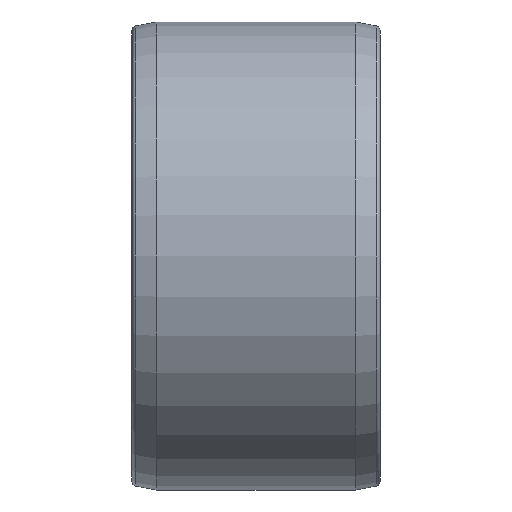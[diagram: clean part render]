
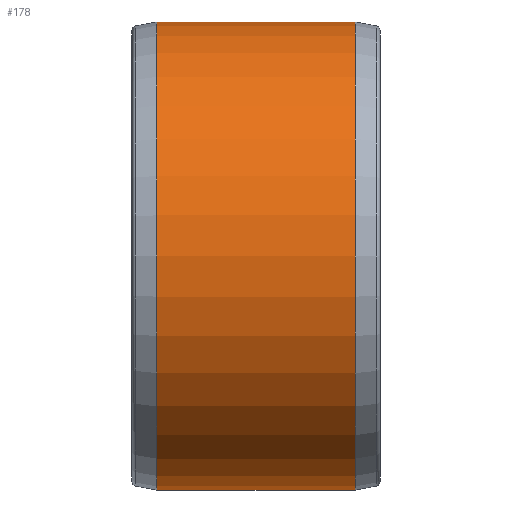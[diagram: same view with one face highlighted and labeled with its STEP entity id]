
A CAD part, front view. The second image highlights one B-rep face of the part: STEP entity #178.
In plain terms, the highlighted cylindrical face has radius 100 mm (diameter 200 mm), a full revolution.
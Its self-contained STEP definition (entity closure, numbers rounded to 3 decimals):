
#20=CYLINDRICAL_SURFACE('',#210,100.);
#38=FACE_BOUND('',#82,.T.);
#53=FACE_OUTER_BOUND('',#81,.T.);
#81=EDGE_LOOP('',(#156));
#82=EDGE_LOOP('',(#157));
#92=CIRCLE('',#196,100.);
#98=CIRCLE('',#207,100.);
#107=VERTEX_POINT('',#296);
#113=VERTEX_POINT('',#313);
#122=EDGE_CURVE('',#107,#107,#92,.T.);
#128=EDGE_CURVE('',#113,#113,#98,.T.);
#156=ORIENTED_EDGE('',*,*,#122,.F.);
#157=ORIENTED_EDGE('',*,*,#128,.F.);
#178=ADVANCED_FACE('',(#53,#38),#20,.T.);
#196=AXIS2_PLACEMENT_3D('',#297,#242,#243);
#207=AXIS2_PLACEMENT_3D('',#314,#264,#265);
#210=AXIS2_PLACEMENT_3D('',#318,#270,#271);
#242=DIRECTION('center_axis',(1.,0.,0.));
#243=DIRECTION('ref_axis',(0.,0.,-1.));
#264=DIRECTION('center_axis',(-1.,0.,0.));
#265=DIRECTION('ref_axis',(0.,-1.,0.));
#270=DIRECTION('center_axis',(1.,0.,0.));
#271=DIRECTION('ref_axis',(0.,1.,0.));
#296=CARTESIAN_POINT('',(-10.6,100.,0.));
#297=CARTESIAN_POINT('Origin',(-10.6,0.,0.));
#313=CARTESIAN_POINT('',(-95.4,100.,0.));
#314=CARTESIAN_POINT('Origin',(-95.4,0.,0.));
#318=CARTESIAN_POINT('Origin',(-58.3,0.,0.));
